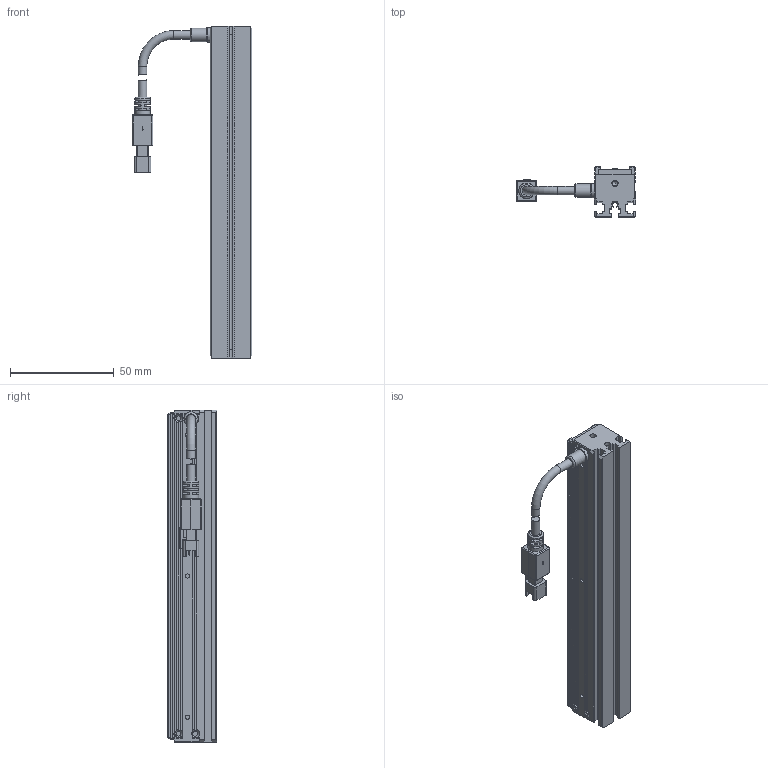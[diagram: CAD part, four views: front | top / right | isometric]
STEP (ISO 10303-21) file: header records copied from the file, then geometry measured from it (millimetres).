
FILE_DESCRIPTION (( 'STEP AP203' ), '1' );
FILE_NAME ('OPT-ULI16020-UV-V1.0U 尨砩芞.STEP', '2024-12-10T09:07:51', ( '' ), ( '' ), 'SwSTEP 2.0', 'SolidWorks 2016', '' );
FILE_SCHEMA (( 'CONFIG_CONTROL_DESIGN' ));
Length unit declared in the file: millimetre
Products named in the file (1): OPT-ULI16020-UV-V1.0U 尨砩芞
Bounding box: 57.6 x 24 x 160 mm (x, y, z)
Volume: 63354.3 mm3; surface area: 30217.9 mm2
Topology: 6 solids, 16 shells, 630 faces, 1629 edges, 1051 vertices
Faces by surface type: plane 429, cylinder 142, cone 30, bspline 21, torus 8
Full cylindrical faces by diameter (mm): 1.1 x2, 1.4 x4, 1.6 x9, 2 x13, 2.4 x7, 2.5 x2, 2.6 x2, 3 x2, 3.5 x1, 4.1 x4, 6.5 x1, 7 x1, 7.5 x1
Entity records: 19135 total; most frequent: CARTESIAN_POINT 4380, ORIENTED_EDGE 3010, DIRECTION 2926, EDGE_CURVE 1505, LINE 1044, VECTOR 1044, VERTEX_POINT 1010, AXIS2_PLACEMENT_3D 941
